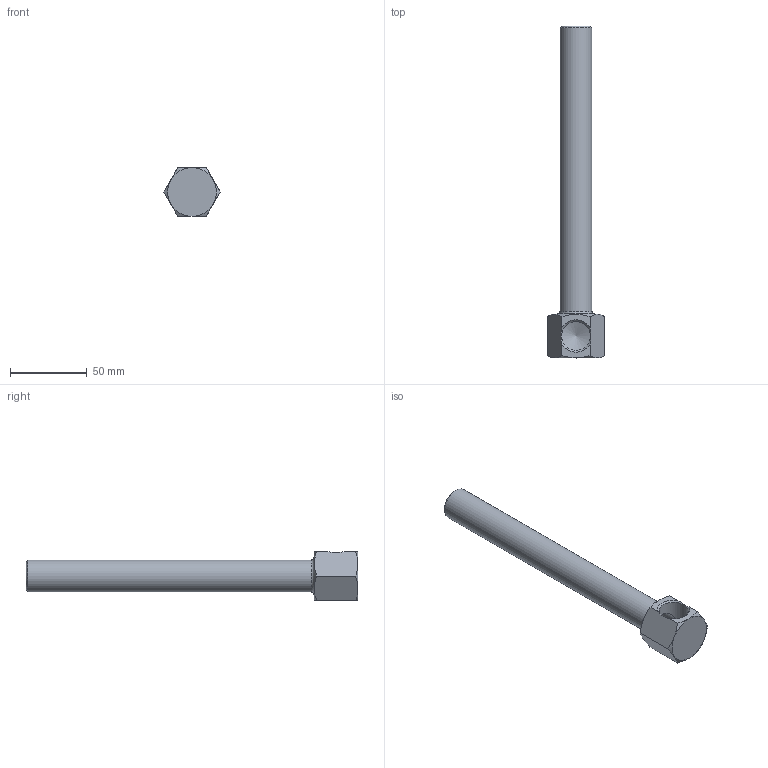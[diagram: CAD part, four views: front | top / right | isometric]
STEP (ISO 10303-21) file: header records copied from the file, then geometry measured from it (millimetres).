
FILE_DESCRIPTION(/* description */ (''),/* implementation_level */ '2;1');
FILE_NAME(/* name */ 'C:/Users/drich/Desktop/50B-8-1_2 v1.step',/* time_stamp */ '2019-12-29T15:26:18-06:00',/* author */ (''),/* organization */ (''),/* preprocessor_version */ 'ST-DEVELOPER v18',/* originating_system */ 'Autodesk Translation Framework v8.12.0.6',/* authorisation */ '');
FILE_SCHEMA (('AUTOMOTIVE_DESIGN { 1 0 10303 214 3 1 1 }'));
Length unit declared in the file: inch
Products named in the file (1): 50B-8-1_2
Bounding box: 36.66 x 215.9 x 31.75 mm (x, y, z)
Volume: 47123.2 mm3; surface area: 27119.2 mm2
Topology: 1 solids, 1 shells, 20 faces, 53 edges, 35 vertices
Faces by surface type: plane 10, cone 6, cylinder 3, torus 1
Full cylindrical faces by diameter (mm): 15.062 x1, 18.901 x1, 20.813 x1
Entity records: 687 total; most frequent: CARTESIAN_POINT 184, ORIENTED_EDGE 104, DIRECTION 91, EDGE_CURVE 52, AXIS2_PLACEMENT_3D 37, VERTEX_POINT 35, EDGE_LOOP 23, FACE_OUTER_BOUND 20
